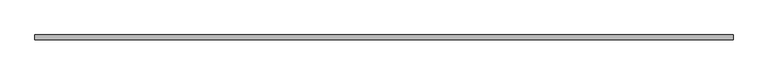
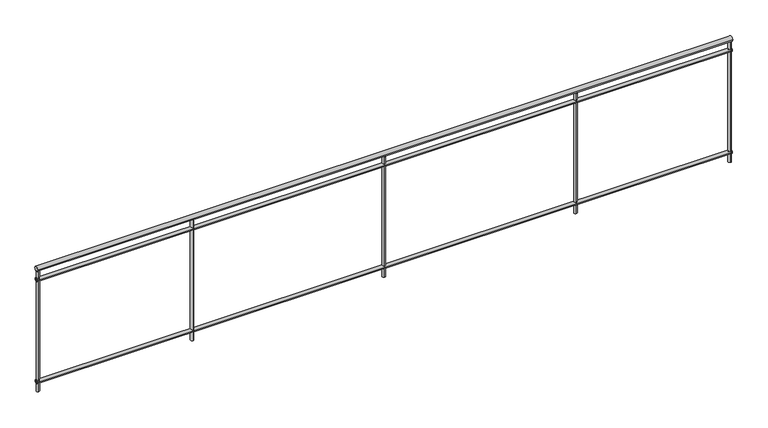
"""IFC4 building model written with IfcOpenShell, lengths in millimetres: railing geometry, バルコニー手摺."""

from ifc_helpers import new_model, si_unit, point, frame, frame_2d, origin, place, context, project, spatial, circle_curve, trimmed, segment, composite_curve, outline, extrude, source, transform, mapped, element, save


def railing_8c28f024(model_context):
    return source(origin(), model_context, "Body", "SweptSolid", [
        extrude(outline(composite_curve([segment(trimmed(circle_curve(frame_2d((10035.2598658, 7980.0)), 20.0), [point((10055.2598658, 7980.0))], [point((10015.2598658, 7980.0))], False, "CARTESIAN"), True, "CONTINUOUS"), segment(trimmed(circle_curve(frame_2d((10035.2598658, 7980.0)), 20.0), [point((10015.2598658, 7980.0))], [point((10055.2598658, 7980.0))], False, "CARTESIAN"), True, "CONTINUOUS")], self_intersect=False)), frame((-9895.6194095, 0.0, 0.0), z_axis=(1.0, 0.0, 0.0), x_axis=(0.0, 1.0, 0.0)), (0.0, 0.0, 1.0), 5800.0),
        extrude(outline(composite_curve([segment(trimmed(circle_curve(frame_2d((10035.2598658, 7885.0)), 15.0), [point((10050.2598658, 7885.0))], [point((10020.2598658, 7885.0))], False, "CARTESIAN"), True, "CONTINUOUS"), segment(trimmed(circle_curve(frame_2d((10035.2598658, 7885.0)), 15.0), [point((10020.2598658, 7885.0))], [point((10050.2598658, 7885.0))], False, "CARTESIAN"), True, "CONTINUOUS")], self_intersect=False)), frame((-9895.6194095, 0.0, 0.0), z_axis=(1.0, 0.0, 0.0), x_axis=(0.0, 1.0, 0.0)), (0.0, 0.0, 1.0), 5800.0),
        extrude(outline(composite_curve([segment(trimmed(circle_curve(frame_2d((10035.2598658, 6985.0)), 15.0), [point((10050.2598658, 6985.0))], [point((10020.2598658, 6985.0))], False, "CARTESIAN"), True, "CONTINUOUS"), segment(trimmed(circle_curve(frame_2d((10035.2598658, 6985.0)), 15.0), [point((10020.2598658, 6985.0))], [point((10050.2598658, 6985.0))], False, "CARTESIAN"), True, "CONTINUOUS")], self_intersect=False)), frame((-9895.6194095, 0.0, 0.0), z_axis=(1.0, 0.0, 0.0), x_axis=(0.0, 1.0, 0.0)), (0.0, 0.0, 1.0), 5800.0),
        extrude(outline(composite_curve([segment(trimmed(circle_curve(frame_2d((-5395.6194095, 10035.2598658)), 12.5), [point((-5395.6194095, 10047.7598658))], [point((-5395.6194095, 10022.7598658))], False, "CARTESIAN"), True, "CONTINUOUS"), segment(trimmed(circle_curve(frame_2d((-5395.6194095, 10035.2598658)), 12.5), [point((-5395.6194095, 10022.7598658))], [point((-5395.6194095, 10047.7598658))], False, "CARTESIAN"), True, "CONTINUOUS")], self_intersect=False)), frame((0.0, 0.0, 6900.0), z_axis=(0.0, 0.0, 1.0), x_axis=(1.0, 0.0, 0.0)), (0.0, 0.0, 1.0), 1060.0),
        extrude(outline(composite_curve([segment(trimmed(circle_curve(frame_2d((-6995.6194095, 10035.2598658)), 12.5), [point((-6995.6194095, 10047.7598658))], [point((-6995.6194095, 10022.7598658))], False, "CARTESIAN"), True, "CONTINUOUS"), segment(trimmed(circle_curve(frame_2d((-6995.6194095, 10035.2598658)), 12.5), [point((-6995.6194095, 10022.7598658))], [point((-6995.6194095, 10047.7598658))], False, "CARTESIAN"), True, "CONTINUOUS")], self_intersect=False)), frame((0.0, 0.0, 6900.0), z_axis=(0.0, 0.0, 1.0), x_axis=(1.0, 0.0, 0.0)), (0.0, 0.0, 1.0), 1060.0),
        extrude(outline(composite_curve([segment(trimmed(circle_curve(frame_2d((-8595.6194095, 10035.2598658)), 12.5), [point((-8595.6194095, 10047.7598658))], [point((-8595.6194095, 10022.7598658))], False, "CARTESIAN"), True, "CONTINUOUS"), segment(trimmed(circle_curve(frame_2d((-8595.6194095, 10035.2598658)), 12.5), [point((-8595.6194095, 10022.7598658))], [point((-8595.6194095, 10047.7598658))], False, "CARTESIAN"), True, "CONTINUOUS")], self_intersect=False)), frame((0.0, 0.0, 6900.0), z_axis=(0.0, 0.0, 1.0), x_axis=(1.0, 0.0, 0.0)), (0.0, 0.0, 1.0), 1060.0),
        extrude(outline(composite_curve([segment(trimmed(circle_curve(frame_2d((-4107.8194095, 10035.2598658)), 12.5), [point((-4107.8194095, 10047.7598658))], [point((-4107.8194095, 10022.7598658))], False, "CARTESIAN"), True, "CONTINUOUS"), segment(trimmed(circle_curve(frame_2d((-4107.8194095, 10035.2598658)), 12.5), [point((-4107.8194095, 10022.7598658))], [point((-4107.8194095, 10047.7598658))], False, "CARTESIAN"), True, "CONTINUOUS")], self_intersect=False)), frame((0.0, 0.0, 6900.0), z_axis=(0.0, 0.0, 1.0), x_axis=(1.0, 0.0, 0.0)), (0.0, 0.0, 1.0), 1060.0),
        extrude(outline(composite_curve([segment(trimmed(circle_curve(frame_2d((-9883.4194095, 10035.2598658)), 12.5), [point((-9883.4194095, 10047.7598658))], [point((-9883.4194095, 10022.7598658))], False, "CARTESIAN"), True, "CONTINUOUS"), segment(trimmed(circle_curve(frame_2d((-9883.4194095, 10035.2598658)), 12.5), [point((-9883.4194095, 10022.7598658))], [point((-9883.4194095, 10047.7598658))], False, "CARTESIAN"), True, "CONTINUOUS")], self_intersect=False)), frame((0.0, 0.0, 6900.0), z_axis=(0.0, 0.0, 1.0), x_axis=(1.0, 0.0, 0.0)), (0.0, 0.0, 1.0), 1060.0),
    ])


if __name__ == "__main__":
    model = new_model("IFC4")
    model_context = context("Model", 3, world=origin())
    ifc_project = project(units=[si_unit("LENGTHUNIT", "METRE", prefix="MILLI")], contexts=[model_context])
    site = spatial("IfcSite", under=ifc_project)
    building = spatial("IfcBuilding", under=site)
    placement = place(None, origin())
    railing_shape = railing_8c28f024(model_context)
    element("IfcRailing", 1, ObjectType="バルコニー手摺", at=placement, inside=building, context=model_context, shape_type="MappedRepresentation", body=[
        mapped(railing_shape, transform((0.0, 0.0, 0.0), x_axis=(1.0, 0.0, 0.0), y_axis=(0.0, 1.0, 0.0), z_axis=(0.0, 0.0, 1.0))),
    ])
    save(model, "model.ifc")
